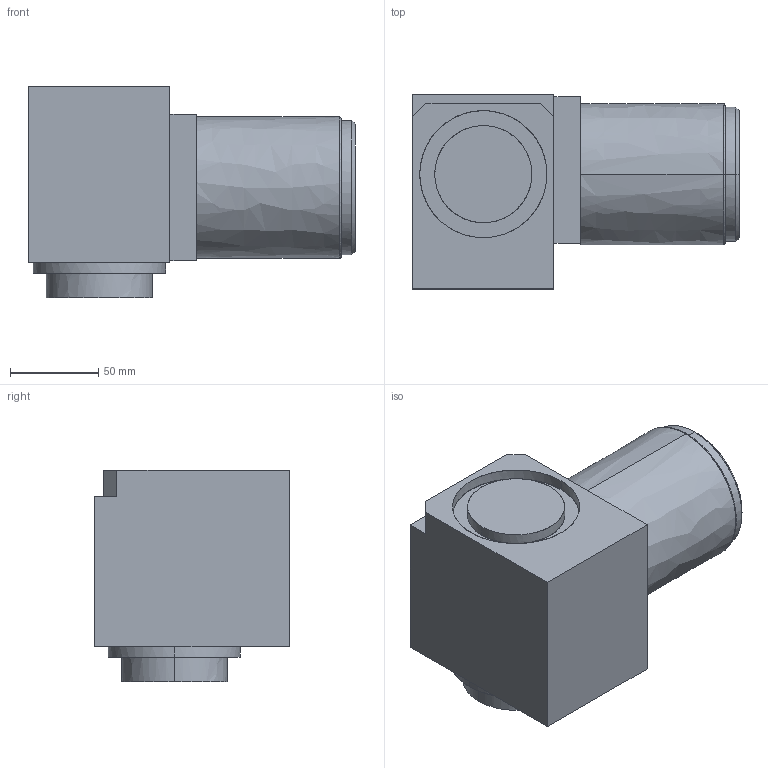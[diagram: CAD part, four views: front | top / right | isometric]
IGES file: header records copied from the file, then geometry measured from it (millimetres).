
Start section: START RECORD GO HERE.
Global section: file name: x-spring.igs; native system: IBM CATIA IGES - CATIA Version 5 Release 12 ; preprocessor: CATIA Version 5 Release 12 ; author: mta; organization: MONTREUIL; date: 20031219.140301; units: millimetre
Bounding box: 185 x 110 x 120 mm (x, y, z)
Surface area: 86443.7 mm2 (no closed solid volume)
Topology: 0 solids, 0 shells, 49 faces, 1138 edges, 1138 vertices
Faces by surface type: plane 25, bspline 24
